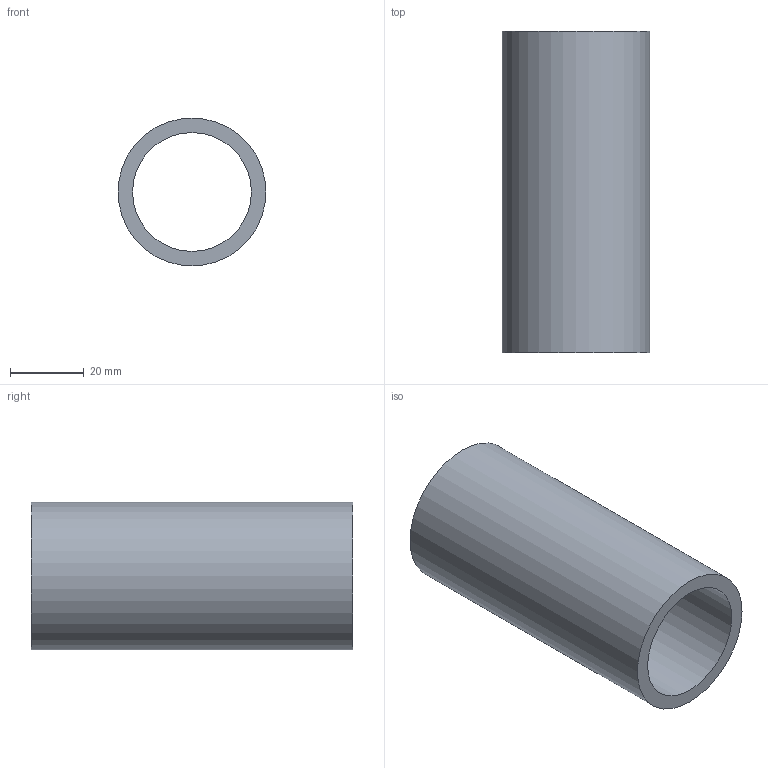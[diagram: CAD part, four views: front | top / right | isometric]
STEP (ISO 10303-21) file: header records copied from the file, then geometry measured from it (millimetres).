
FILE_DESCRIPTION(/* description */ ('ＶＰ'),/* implementation_level */ '2;1');
FILE_NAME(/* name */ 'C:\Users\Fujimoto-s\OneDrive\Inventor\WorkSpace\\X2\305D306E4ED6\X0\\ホームページ用\\X2\30C030A630F330ED30FC30C97D206750\X0\\塩ビ配管\TS-S25\TS-S25.stp',/* time_stamp */ '2024-08-10T13:32:53+09:00',/* author */ ('Fujimoto-s'),/* organization */ (''),/* preprocessor_version */ 'ST-DEVELOPER v15.2',/* originating_system */ 'Autodesk Inventor 2014',/* authorisation */ '');
FILE_SCHEMA (('AUTOMOTIVE_DESIGN { 1 0 10303 214 3 1 1 }'));
Length unit declared in the file: millimetre
Products named in the file (1): TS-S25
Bounding box: 40 x 87 x 40 mm (x, y, z)
Volume: 38656.4 mm3; surface area: 20611.3 mm2
Topology: 1 solids, 1 shells, 4 faces, 7 edges, 5 vertices
Faces by surface type: cylinder 2, plane 2
Full cylindrical faces by diameter (mm): 32.16 x1, 40 x1
Entity records: 112 total; most frequent: DIRECTION 18, CARTESIAN_POINT 13, AXIS2_PLACEMENT_3D 9, EDGE_LOOP 8, ORIENTED_EDGE 8, FACE_BOUND 6, CIRCLE 4, VERTEX_POINT 4
